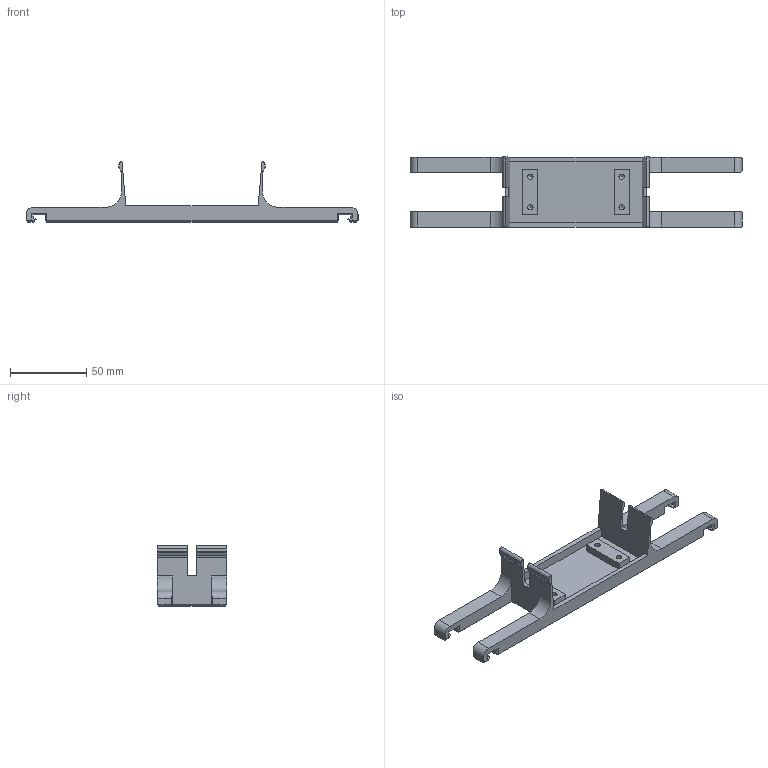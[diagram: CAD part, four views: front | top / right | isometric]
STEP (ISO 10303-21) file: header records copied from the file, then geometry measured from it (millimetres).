
FILE_DESCRIPTION(/* description */ ('STEP AP242 Edition 2','CAx-IF Rec.Pracs.---Representation and Presentation of Product Manufacturing Information (PMI)---4.0---2014-10-13','CAx-IF Rec.Pracs.---3D Tessellated Geometry---0.4---2014-09-14','2;1','CAx-IF Rec.Pracs.---User Defined Attributes---1.5---2016-08-15'),/* implementation_level */ '2;1');
FILE_NAME(/* name */ 'Tarok - Total Assemply - Lower PDB Holder',/* time_stamp */ '2026-05-23T09:34:07Z',/* author */ (''),/* organization */ (''),/* preprocessor_version */ 'ST-DEVELOPER v20',/* originating_system */ 'ONSHAPE BY PTC INC, 1.215',/* authorisation */ ' ');
FILE_SCHEMA (('AP242_MANAGED_MODEL_BASED_3D_ENGINEERING_MIM_LF { 1 0 10303 442 3 1 4 }'));
Length unit declared in the file: metre
Products named in the file (1): Lower PDB Holder
Bounding box: 218.2 x 46 x 40 mm (x, y, z)
Volume: 57618.5 mm3; surface area: 28793.7 mm2
Topology: 1 solids, 1 shells, 194 faces, 478 edges, 288 vertices
Faces by surface type: plane 162, cylinder 28, cone 4
Full cylindrical faces by diameter (mm): 3.5 x4
Entity records: 5520 total; most frequent: CARTESIAN_POINT 949, ORIENTED_EDGE 932, DIRECTION 928, EDGE_CURVE 466, LINE 394, VECTOR 394, VERTEX_POINT 288, AXIS2_PLACEMENT_3D 267
